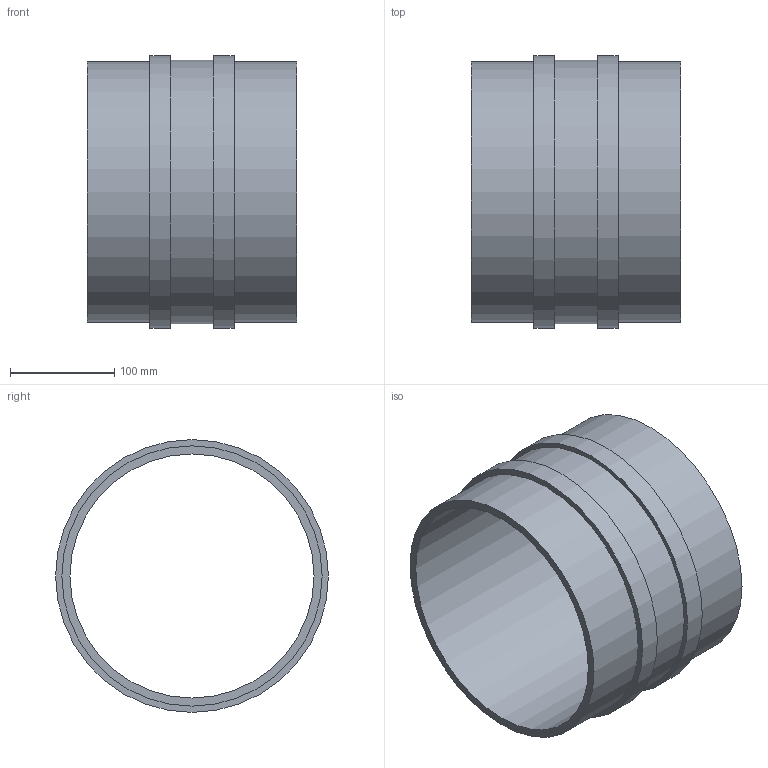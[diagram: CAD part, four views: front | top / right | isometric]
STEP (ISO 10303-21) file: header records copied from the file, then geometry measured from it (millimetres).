
FILE_DESCRIPTION(/* description */ (''),/* implementation_level */ '2;1');
FILE_NAME(/* name */ 'Z:\Geberit\Export\NewStep\371751.stp',/* time_stamp */ '2014-04-02T08:05:55+02:00',/* author */ ('nelson'),/* organization */ (''),/* preprocessor_version */ 'ST-DEVELOPER v15.2',/* originating_system */ 'Autodesk Inventor 2014',/* authorisation */ '');
FILE_SCHEMA (('AUTOMOTIVE_DESIGN { 1 0 10303 214 3 1 1 }'));
Length unit declared in the file: millimetre
Products named in the file (1): 371751
Bounding box: 201 x 262 x 262 mm (x, y, z)
Volume: 1434540.5 mm3; surface area: 336575.2 mm2
Topology: 1 solids, 1 shells, 12 faces, 18 edges, 12 vertices
Faces by surface type: plane 6, cylinder 6
Full cylindrical faces by diameter (mm): 234.4 x1, 250 x2, 253 x1, 262 x2
Entity records: 269 total; most frequent: DIRECTION 50, CARTESIAN_POINT 37, AXIS2_PLACEMENT_3D 25, EDGE_LOOP 24, ORIENTED_EDGE 24, FACE_BOUND 15, CIRCLE 12, VERTEX_POINT 12
